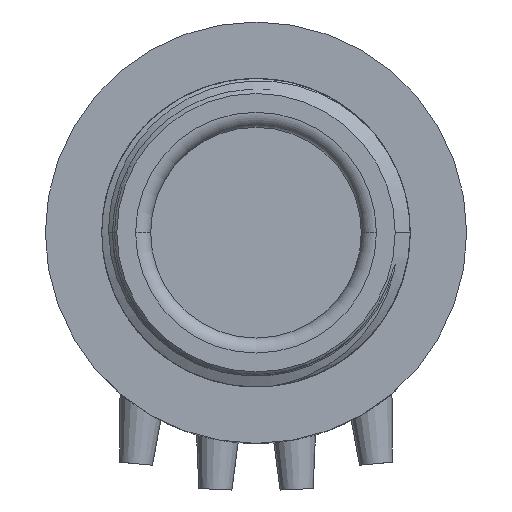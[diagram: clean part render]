
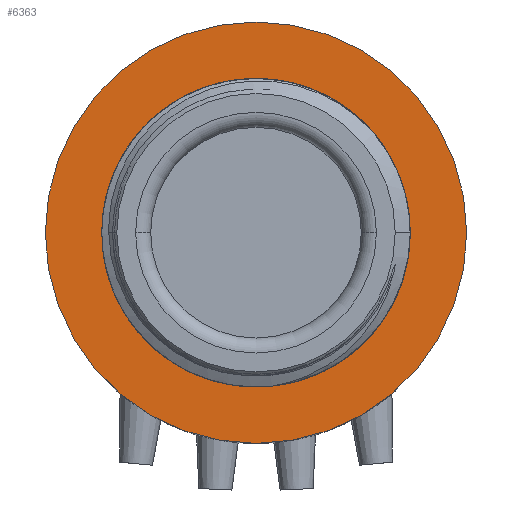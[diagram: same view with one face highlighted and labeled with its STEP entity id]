
A CAD part, front view. The second image highlights one B-rep face of the part: STEP entity #6363.
In plain terms, the highlighted planar face has unit normal (0, -1, 0).
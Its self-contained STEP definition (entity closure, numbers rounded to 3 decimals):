
#3019=CARTESIAN_POINT('',(0.,10.,0.));
#3020=DIRECTION('',(0.,-1.,0.));
#3021=DIRECTION('',(-1.,0.,0.));
#3022=AXIS2_PLACEMENT_3D('',#3019,#3020,#3021);
#3024=CARTESIAN_POINT('',(0.,10.,0.));
#3025=DIRECTION('',(0.,1.,0.));
#3026=DIRECTION('',(-1.,0.,0.));
#3027=AXIS2_PLACEMENT_3D('',#3024,#3025,#3026);
#3029=CARTESIAN_POINT('',(0.,10.,0.));
#3030=DIRECTION('',(0.,1.,0.));
#3031=DIRECTION('',(-1.,0.,0.));
#3032=AXIS2_PLACEMENT_3D('',#3029,#3030,#3031);
#3042=CARTESIAN_POINT('',(0.,10.,0.));
#3043=DIRECTION('',(0.,-1.,0.));
#3044=DIRECTION('',(-1.,0.,0.));
#3045=AXIS2_PLACEMENT_3D('',#3042,#3043,#3044);
#3931=CARTESIAN_POINT('',(-14.,10.,0.));
#3932=CARTESIAN_POINT('',(14.,10.,0.));
#3933=VERTEX_POINT('',#3931);
#3934=VERTEX_POINT('',#3932);
#4035=CARTESIAN_POINT('',(-9.25,10.,0.));
#4037=VERTEX_POINT('',#4035);
#4043=CARTESIAN_POINT('',(9.25,10.,0.));
#4045=VERTEX_POINT('',#4043);
#6348=CARTESIAN_POINT('',(0.,10.,0.));
#6349=DIRECTION('',(0.,-1.,0.));
#6350=DIRECTION('',(-1.,0.,0.));
#6351=AXIS2_PLACEMENT_3D('',#6348,#6349,#6350);
#6352=PLANE('',#6351);
#6353=ORIENTED_EDGE('',*,*,#4812,.F.);
#6354=ORIENTED_EDGE('',*,*,#6330,.T.);
#6355=EDGE_LOOP('',(#6353,#6354));
#6356=FACE_OUTER_BOUND('',#6355,.F.);
#6358=ORIENTED_EDGE('',*,*,#6357,.F.);
#6360=ORIENTED_EDGE('',*,*,#6359,.T.);
#6361=EDGE_LOOP('',(#6358,#6360));
#6362=FACE_BOUND('',#6361,.F.);
#6363=ADVANCED_FACE('',(#6356,#6362),#6352,.T.);
#3023=CIRCLE('',#3022,14.);
#3028=CIRCLE('',#3027,14.);
#3033=CIRCLE('',#3032,9.25);
#3046=CIRCLE('',#3045,9.25);
#4812=EDGE_CURVE('',#3933,#3934,#3023,.T.);
#6330=EDGE_CURVE('',#3933,#3934,#3028,.T.);
#6357=EDGE_CURVE('',#4037,#4045,#3033,.T.);
#6359=EDGE_CURVE('',#4037,#4045,#3046,.T.);
